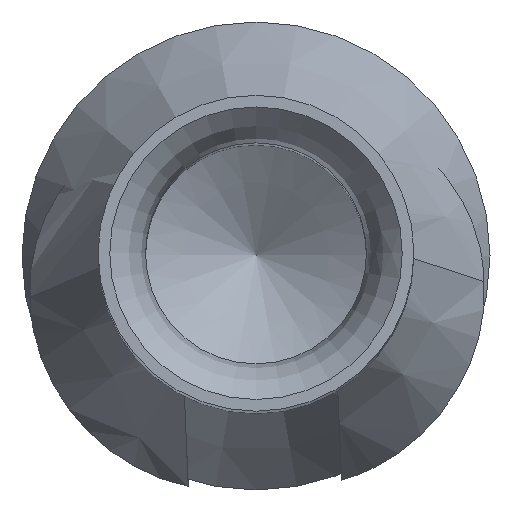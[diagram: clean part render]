
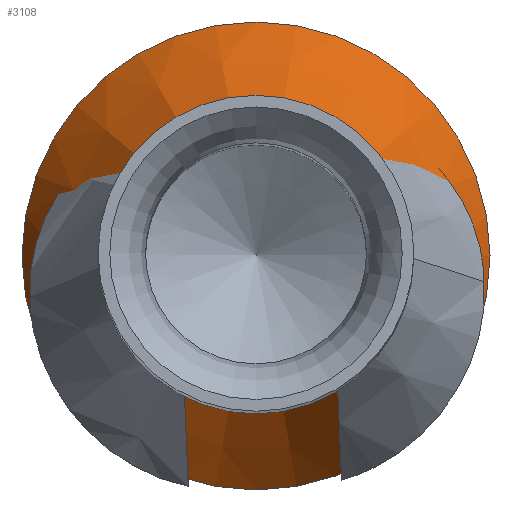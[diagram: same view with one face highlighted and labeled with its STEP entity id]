
A CAD part, top view. The second image highlights one B-rep face of the part: STEP entity #3108.
In plain terms, the highlighted conical face has half-angle 25.346 degrees and reference radius 0.9 mm.
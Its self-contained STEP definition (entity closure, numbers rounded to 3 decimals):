
#25=CONICAL_SURFACE('',#3611,0.9,0.442);
#127=CIRCLE('',#3610,0.9);
#128=CIRCLE('',#3612,1.8);
#876=ORIENTED_EDGE('',*,*,#1482,.F.);
#877=ORIENTED_EDGE('',*,*,#1481,.T.);
#1481=EDGE_CURVE('',#1799,#1799,#127,.T.);
#1482=EDGE_CURVE('',#1800,#1800,#128,.T.);
#1799=VERTEX_POINT('',#5019);
#1800=VERTEX_POINT('',#5022);
#2019=EDGE_LOOP('',(#876));
#2020=EDGE_LOOP('',(#877));
#2205=FACE_BOUND('',#2019,.T.);
#2206=FACE_BOUND('',#2020,.T.);
#3108=ADVANCED_FACE('',(#2205,#2206),#25,.T.);
#3610=AXIS2_PLACEMENT_3D('',#5018,#3959,#3960);
#3611=AXIS2_PLACEMENT_3D('',#5020,#3961,#3962);
#3612=AXIS2_PLACEMENT_3D('',#5021,#3963,#3964);
#3959=DIRECTION('',(0.,0.,-1.));
#3960=DIRECTION('',(-1.,0.,0.));
#3961=DIRECTION('',(0.,0.,-1.));
#3962=DIRECTION('',(-1.,0.,0.));
#3963=DIRECTION('',(0.,0.,-1.));
#3964=DIRECTION('',(-1.,0.,0.));
#5018=CARTESIAN_POINT('',(0.,0.,11.42));
#5019=CARTESIAN_POINT('',(-0.9,0.,11.42));
#5020=CARTESIAN_POINT('',(0.,0.,11.42));
#5021=CARTESIAN_POINT('',(0.,0.,9.52));
#5022=CARTESIAN_POINT('',(-1.8,0.,9.52));
